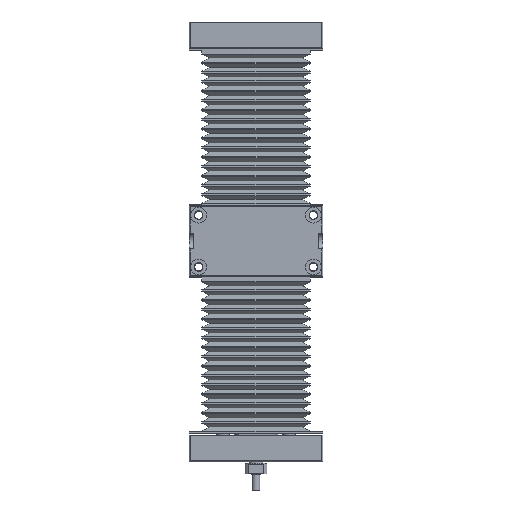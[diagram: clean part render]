
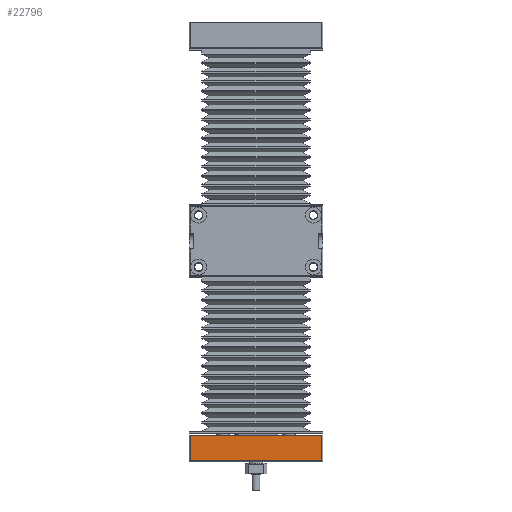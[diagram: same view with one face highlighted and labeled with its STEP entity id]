
A CAD part, front view. The second image highlights one B-rep face of the part: STEP entity #22796.
In plain terms, the highlighted planar face has unit normal (0, -1, 0).
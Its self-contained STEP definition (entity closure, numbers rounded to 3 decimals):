
#1446 = DIRECTION ( 'NONE',  ( 0., 0., 1. ) ) ;
#2088 = EDGE_LOOP ( 'NONE', ( #30175, #32307, #5766, #12676 ) ) ;
#2342 = VECTOR ( 'NONE', #1446, 1000. ) ;
#2373 = CARTESIAN_POINT ( 'NONE',  ( 0., 0., -42. ) ) ;
#2547 = CARTESIAN_POINT ( 'NONE',  ( 0., 0., 42. ) ) ;
#2744 = VECTOR ( 'NONE', #5478, 1000. ) ;
#4698 = CARTESIAN_POINT ( 'NONE',  ( 0., 0., 0. ) ) ;
#5348 = VERTEX_POINT ( 'NONE', #9337 ) ;
#5478 = DIRECTION ( 'NONE',  ( -1., 0., 0. ) ) ;
#5766 = ORIENTED_EDGE ( 'NONE', *, *, #14458, .T. ) ;
#6144 = VECTOR ( 'NONE', #18350, 1000. ) ;
#9337 = CARTESIAN_POINT ( 'NONE',  ( -123.5, 0., -42. ) ) ;
#10424 = LINE ( 'NONE', #29205, #6144 ) ;
#11015 = VERTEX_POINT ( 'NONE', #17743 ) ;
#11087 = EDGE_CURVE ( 'NONE', #18047, #11015, #26360, .T. ) ;
#12645 = FACE_OUTER_BOUND ( 'NONE', #2088, .T. ) ;
#12676 = ORIENTED_EDGE ( 'NONE', *, *, #23727, .T. ) ;
#12735 = LINE ( 'NONE', #2373, #25420 ) ;
#12906 = DIRECTION ( 'NONE',  ( 1., 0., 0. ) ) ;
#14458 = EDGE_CURVE ( 'NONE', #11015, #21031, #10424, .T. ) ;
#14896 = PLANE ( 'NONE',  #27566 ) ;
#15228 = DIRECTION ( 'NONE',  ( 0., 1., 0. ) ) ;
#17743 = CARTESIAN_POINT ( 'NONE',  ( -139.5, 0., 42. ) ) ;
#18047 = VERTEX_POINT ( 'NONE', #19669 ) ;
#18350 = DIRECTION ( 'NONE',  ( 0., 0., -1. ) ) ;
#19669 = CARTESIAN_POINT ( 'NONE',  ( -123.5, 0., 42. ) ) ;
#21031 = VERTEX_POINT ( 'NONE', #21067 ) ;
#21067 = CARTESIAN_POINT ( 'NONE',  ( -139.5, 0., -42. ) ) ;
#22796 = ADVANCED_FACE ( 'NONE', ( #12645 ), #14896, .F. ) ;
#23727 = EDGE_CURVE ( 'NONE', #21031, #5348, #12735, .T. ) ;
#25256 = LINE ( 'NONE', #25597, #2342 ) ;
#25420 = VECTOR ( 'NONE', #12906, 1000. ) ;
#25589 = EDGE_CURVE ( 'NONE', #5348, #18047, #25256, .T. ) ;
#25597 = CARTESIAN_POINT ( 'NONE',  ( -123.5, 0., 0. ) ) ;
#26360 = LINE ( 'NONE', #2547, #2744 ) ;
#27566 = AXIS2_PLACEMENT_3D ( 'NONE', #4698, #15228, #33341 ) ;
#29205 = CARTESIAN_POINT ( 'NONE',  ( -139.5, 0., 0. ) ) ;
#30175 = ORIENTED_EDGE ( 'NONE', *, *, #25589, .T. ) ;
#32307 = ORIENTED_EDGE ( 'NONE', *, *, #11087, .T. ) ;
#33341 = DIRECTION ( 'NONE',  ( 0., 0., 1. ) ) ;
